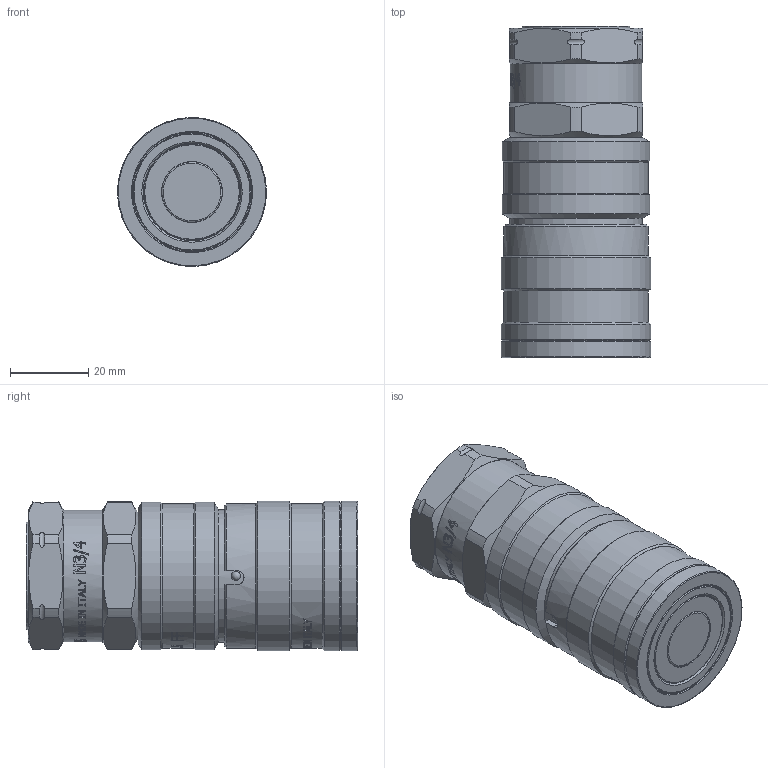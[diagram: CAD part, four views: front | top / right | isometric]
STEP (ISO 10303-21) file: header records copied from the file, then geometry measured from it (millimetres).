
FILE_DESCRIPTION(/* description */ (''),/* implementation_level */ '2;1');
FILE_NAME(/* name */ 'NC06N040000.stp',/* time_stamp */ '2024-08-26T16:19:28+02:00',/* author */ ('thomas.belotti'),/* organization */ (''),/* preprocessor_version */ 'ST-DEVELOPER v20',/* originating_system */ 'Autodesk Inventor 2024',/* authorisation */ '');
FILE_SCHEMA (('AUTOMOTIVE_DESIGN { 1 0 10303 214 3 1 1 }'));
Products named in the file (1): Parte6
Bounding box: 38.09 x 84.56 x 38.09 mm (x, y, z)
Volume: 80351.2 mm3; surface area: 17957.4 mm2
Topology: 1 solids, 6 shells, 1609 faces, 4543 edges, 3014 vertices
Faces by surface type: bspline 1101, plane 349, cylinder 118, cone 25, torus 10, sphere 6
Full cylindrical faces by diameter (mm): 2.3 x2, 15.6 x1, 23 x1, 24 x1, 24.55 x1, 27.5 x1, 30 x1, 30.145 x1, 30.376 x1, 30.55 x1, 32 x1, 32.3 x1, 33.5 x1, 33.9 x1, 34.1 x1, 37 x3, 37.7 x2, 38.1 x3
Entity records: 69798 total; most frequent: CARTESIAN_POINT 34097, ORIENTED_EDGE 9082, EDGE_CURVE 4541, DIRECTION 3594, VERTEX_POINT 3014, B_SPLINE_CURVE_WITH_KNOTS 2383, EDGE_LOOP 1701, LINE 1684
